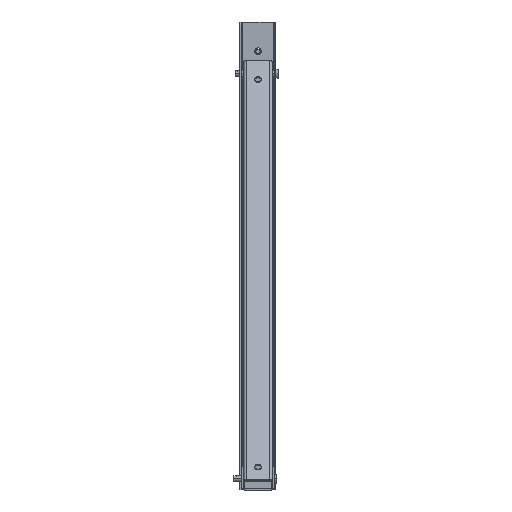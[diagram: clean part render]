
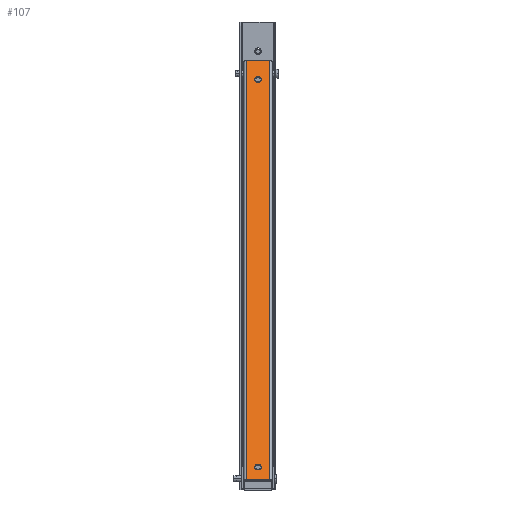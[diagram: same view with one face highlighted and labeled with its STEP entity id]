
A CAD part, front view. The second image highlights one B-rep face of the part: STEP entity #107.
In plain terms, the highlighted planar face has unit normal (0, -0.704, 0.71) as drawn and (0, -1, 0) by its records, which use the part's own axes.
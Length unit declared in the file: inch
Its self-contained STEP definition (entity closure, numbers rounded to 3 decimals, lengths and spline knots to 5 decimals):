
#18 = VERTEX_POINT ( 'NONE', #1186 ) ;
#50 = EDGE_CURVE ( 'NONE', #51, #18, #1250, .T. ) ;
#51 = VERTEX_POINT ( 'NONE', #1246 ) ;
#103 = EDGE_LOOP ( 'NONE', ( #251, #387, #380, #386 ) ) ;
#105 = ORIENTED_EDGE ( 'NONE', *, *, #252, .F. ) ;
#106 = ORIENTED_EDGE ( 'NONE', *, *, #152, .F. ) ;
#107 = ADVANCED_FACE ( 'NONE', ( #1343, #1342, #1341 ), #1340, .F. ) ;
#108 = ORIENTED_EDGE ( 'NONE', *, *, #132, .F. ) ;
#109 = EDGE_LOOP ( 'NONE', ( #105, #106 ) ) ;
#110 = EDGE_LOOP ( 'NONE', ( #113, #108 ) ) ;
#112 = EDGE_CURVE ( 'NONE', #133, #138, #1330, .T. ) ;
#113 = ORIENTED_EDGE ( 'NONE', *, *, #112, .F. ) ;
#132 = EDGE_CURVE ( 'NONE', #138, #133, #1362, .T. ) ;
#133 = VERTEX_POINT ( 'NONE', #1358 ) ;
#138 = VERTEX_POINT ( 'NONE', #1415 ) ;
#146 = VERTEX_POINT ( 'NONE', #1400 ) ;
#150 = VERTEX_POINT ( 'NONE', #1452 ) ;
#152 = EDGE_CURVE ( 'NONE', #150, #146, #1450, .T. ) ;
#251 = ORIENTED_EDGE ( 'NONE', *, *, #381, .T. ) ;
#252 = EDGE_CURVE ( 'NONE', #146, #150, #1525, .T. ) ;
#380 = ORIENTED_EDGE ( 'NONE', *, *, #382, .F. ) ;
#381 = EDGE_CURVE ( 'NONE', #18, #388, #1796, .T. ) ;
#382 = EDGE_CURVE ( 'NONE', #51, #385, #1792, .T. ) ;
#383 = EDGE_CURVE ( 'NONE', #385, #388, #1788, .T. ) ;
#385 = VERTEX_POINT ( 'NONE', #1784 ) ;
#386 = ORIENTED_EDGE ( 'NONE', *, *, #50, .T. ) ;
#387 = ORIENTED_EDGE ( 'NONE', *, *, #383, .F. ) ;
#388 = VERTEX_POINT ( 'NONE', #1783 ) ;
#1186 = CARTESIAN_POINT ( 'NONE',  ( -0.648, 0., 0. ) ) ;
#1246 = CARTESIAN_POINT ( 'NONE',  ( -0.648, 0., 33.095 ) ) ;
#1247 = DIRECTION ( 'NONE',  ( 0., 0., -1. ) ) ;
#1248 = VECTOR ( 'NONE', #1247, 39.37008 ) ;
#1249 = CARTESIAN_POINT ( 'NONE',  ( -0.648, 0., 33.095 ) ) ;
#1250 = LINE ( 'NONE', #1249, #1248 ) ;
#1326 = DIRECTION ( 'NONE',  ( 0., 0., -1. ) ) ;
#1327 = DIRECTION ( 'NONE',  ( 0., -1., 0. ) ) ;
#1328 = CARTESIAN_POINT ( 'NONE',  ( 0., 0., 31.595 ) ) ;
#1329 = AXIS2_PLACEMENT_3D ( 'NONE', #1328, #1327, #1326 ) ;
#1330 = CIRCLE ( 'NONE', #1329, 0.19 ) ;
#1336 = DIRECTION ( 'NONE',  ( 0., 0., 1. ) ) ;
#1337 = DIRECTION ( 'NONE',  ( 0., 1., 0. ) ) ;
#1338 = CARTESIAN_POINT ( 'NONE',  ( 0.648, 0., 33.095 ) ) ;
#1339 = AXIS2_PLACEMENT_3D ( 'NONE', #1338, #1337, #1336 ) ;
#1340 = PLANE ( 'NONE',  #1339 ) ;
#1341 = FACE_OUTER_BOUND ( 'NONE', #103, .T. ) ;
#1342 = FACE_BOUND ( 'NONE', #110, .T. ) ;
#1343 = FACE_BOUND ( 'NONE', #109, .T. ) ;
#1358 = CARTESIAN_POINT ( 'NONE',  ( 0., 0., 31.405 ) ) ;
#1359 = DIRECTION ( 'NONE',  ( 0., 0., -1. ) ) ;
#1360 = DIRECTION ( 'NONE',  ( 0., -1., 0. ) ) ;
#1361 = AXIS2_PLACEMENT_3D ( 'NONE', #1368, #1360, #1359 ) ;
#1362 = CIRCLE ( 'NONE', #1361, 0.19 ) ;
#1368 = CARTESIAN_POINT ( 'NONE',  ( 0., 0., 31.595 ) ) ;
#1400 = CARTESIAN_POINT ( 'NONE',  ( 0., 0., 0.81 ) ) ;
#1415 = CARTESIAN_POINT ( 'NONE',  ( 0., 0., 31.785 ) ) ;
#1446 = DIRECTION ( 'NONE',  ( 0., 0., -1. ) ) ;
#1447 = DIRECTION ( 'NONE',  ( 0., -1., 0. ) ) ;
#1448 = CARTESIAN_POINT ( 'NONE',  ( 0., 0., 1. ) ) ;
#1449 = AXIS2_PLACEMENT_3D ( 'NONE', #1448, #1447, #1446 ) ;
#1450 = CIRCLE ( 'NONE', #1449, 0.19 ) ;
#1452 = CARTESIAN_POINT ( 'NONE',  ( 0., 0., 1.19 ) ) ;
#1521 = DIRECTION ( 'NONE',  ( 0., 0., -1. ) ) ;
#1522 = DIRECTION ( 'NONE',  ( 0., -1., 0. ) ) ;
#1523 = CARTESIAN_POINT ( 'NONE',  ( 0., 0., 1. ) ) ;
#1524 = AXIS2_PLACEMENT_3D ( 'NONE', #1523, #1522, #1521 ) ;
#1525 = CIRCLE ( 'NONE', #1524, 0.19 ) ;
#1783 = CARTESIAN_POINT ( 'NONE',  ( 0.648, 0., 0. ) ) ;
#1784 = CARTESIAN_POINT ( 'NONE',  ( 0.648, 0., 33.095 ) ) ;
#1785 = DIRECTION ( 'NONE',  ( 0., 0., -1. ) ) ;
#1786 = VECTOR ( 'NONE', #1785, 39.37008 ) ;
#1787 = CARTESIAN_POINT ( 'NONE',  ( 0.648, 0., 33.095 ) ) ;
#1788 = LINE ( 'NONE', #1787, #1786 ) ;
#1789 = DIRECTION ( 'NONE',  ( 1., 0., 0. ) ) ;
#1790 = VECTOR ( 'NONE', #1789, 39.37008 ) ;
#1791 = CARTESIAN_POINT ( 'NONE',  ( 0.648, 0., 33.095 ) ) ;
#1792 = LINE ( 'NONE', #1791, #1790 ) ;
#1793 = DIRECTION ( 'NONE',  ( 1., 0., 0. ) ) ;
#1794 = VECTOR ( 'NONE', #1793, 39.37008 ) ;
#1795 = CARTESIAN_POINT ( 'NONE',  ( 0.648, 0., 0. ) ) ;
#1796 = LINE ( 'NONE', #1795, #1794 ) ;
